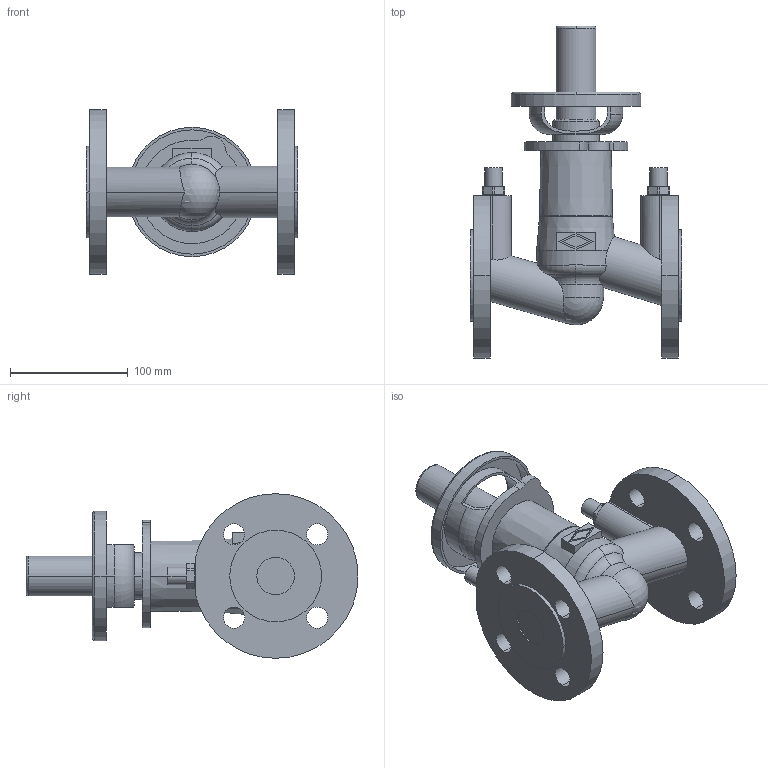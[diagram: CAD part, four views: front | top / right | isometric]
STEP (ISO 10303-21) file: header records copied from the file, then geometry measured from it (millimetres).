
FILE_DESCRIPTION( ( '' ), '1' );
FILE_NAME( 'F:/DE-SHS/TB/OR/04-Sonstiges/daten/files_3d/12020/c000000212.stp', '2015-04-28T06:36:19', ( '' ), ( '' ), ' ', ' ', ' ' );
FILE_SCHEMA( ( 'CONFIG_CONTROL_DESIGN' ) );
Length unit declared in the file: millimetre
Products named in the file (1): 1
Bounding box: 180 x 282.2 x 140 mm (x, y, z)
Volume: 1196314.6 mm3; surface area: 172760 mm2
Topology: 1 solids, 1 shells, 167 faces, 443 edges, 293 vertices
Faces by surface type: cylinder 81, plane 61, torus 18, cone 6, sphere 1
Entity records: 6313 total; most frequent: CARTESIAN_POINT 1932, DIRECTION 961, ORIENTED_EDGE 882, EDGE_CURVE 441, AXIS2_PLACEMENT_3D 386, VERTEX_POINT 293, CIRCLE 214, EDGE_LOOP 204
